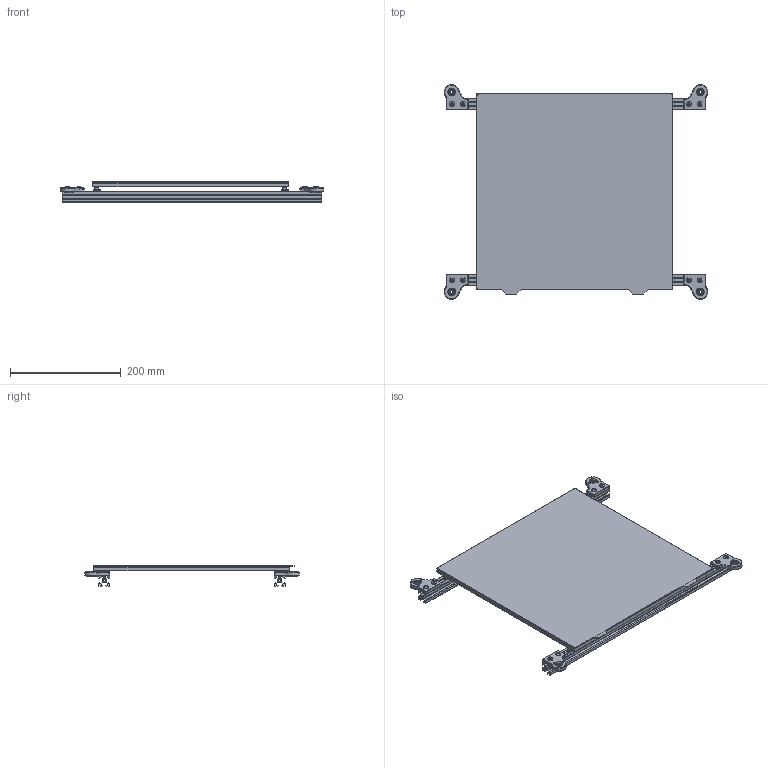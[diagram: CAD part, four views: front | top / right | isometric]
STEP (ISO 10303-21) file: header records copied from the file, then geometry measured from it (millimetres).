
FILE_DESCRIPTION(/* description */ (''),/* implementation_level */ '2;1');
FILE_NAME(/* name */ 'Bed Assembly v2.step',/* time_stamp */ '2024-06-21T14:24:53+07:00',/* author */ (''),/* organization */ (''),/* preprocessor_version */ 'ST-DEVELOPER v20',/* originating_system */ 'Autodesk Translation Framework v13.14.0.145',/* authorisation */ '');
FILE_SCHEMA (('AUTOMOTIVE_DESIGN { 1 0 10303 214 3 1 1 }'));
Length unit declared in the file: millimetre
Products named in the file (43): Bed Assembly; Bed Assembly_1; M4 Knurled Nut DIN 466-B; Flex Sheet; Magnet Sheet; 250mm MIC6 Bed; M3x16 SHCS (2); M4 Knurled Nut DIN 466-B (2); M3x16 SHCS (3); M4 Knurled Nut DIN 466-B (1); M4 Knurled Nut DIN 466-B (3); M3x16 SHCS; M3x16 SHCS (1); 2020 Extrusion 430mm (1); 2020 Extrusion 430mm; Z_Bed_Front Left; M5x10 BHCS (31); GE5C (2); M3x6 BHCS; M3x6 BHCS (8); M3x6 BHCS (9); M5x10 BHCS (39); Z_Bed_Front Right; M5x10 BHCS (31)(Mirror); GE5C (2)(Mirror); M3x6 BHCS(Mirror); M3x6 BHCS (8)(Mirror); M3x6 BHCS (9)(Mirror); M5x10 BHCS (39)(Mirror); Z_Bed_Rear Left; M5x10 BHCS (31)(Mirror) (1); GE5C (2)(Mirror) (1); M3x6 BHCS(Mirror) (1); M3x6 BHCS (8)(Mirror) (1); M3x6 BHCS (9)(Mirror) (1); M5x10 BHCS (39)(Mirror) (1); Z_Bed_Rear Right; M5x10 BHCS (31)(Mirror) (1)(Mirror); GE5C (2)(Mirror) (1)(Mirror); M3x6 BHCS(Mirror) (1)(Mirror)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
Assembly tree (42 placements, depth 3):
  Bed Assembly
    Bed Assembly_1
      M4 Knurled Nut DIN 466-B
      Flex Sheet
      Magnet Sheet
      250mm MIC6 Bed
      M3x16 SHCS (2)
      M4 Knurled Nut DIN 466-B (2)
      M3x16 SHCS (3)
      M4 Knurled Nut DIN 466-B (1)
      M4 Knurled Nut DIN 466-B (3)
      M3x16 SHCS
      M3x16 SHCS (1)
      2020 Extrusion 430mm (1)
      2020 Extrusion 430mm
    Z_Bed_Front Left
      M5x10 BHCS (31)
      GE5C (2)
      M3x6 BHCS
      M3x6 BHCS (8)
      M3x6 BHCS (9)
      M5x10 BHCS (39)
    Z_Bed_Front Right
      M5x10 BHCS (31)(Mirror)
      GE5C (2)(Mirror)
      M3x6 BHCS(Mirror)
      M3x6 BHCS (8)(Mirror)
      M3x6 BHCS (9)(Mirror)
      M5x10 BHCS (39)(Mirror)
    Z_Bed_Rear Left
      M5x10 BHCS (31)(Mirror) (1)
      GE5C (2)(Mirror) (1)
      M3x6 BHCS(Mirror) (1)
      M3x6 BHCS (8)(Mirror) (1)
      M3x6 BHCS (9)(Mirror) (1)
      M5x10 BHCS (39)(Mirror) (1)
    Z_Bed_Rear Right
      M5x10 BHCS (31)(Mirror) (1)(Mirror)
      GE5C (2)(Mirror) (1)(Mirror)
      M3x6 BHCS(Mirror) (1)(Mirror)
      M3x6 BHCS (8)(Mirror) (1)(Mirror)
      M3x6 BHCS (9)(Mirror) (1)(Mirror)
      M5x10 BHCS (39)(Mirror) (1)(Mirror)
Bounding box: 476.51 x 388.45 x 36.6 mm (x, y, z)
Volume: 1279470 mm3; surface area: 943179.7 mm2
Topology: 45 solids, 45 shells, 1008 faces, 2110 edges, 1284 vertices
Faces by surface type: plane 506, cone 244, cylinder 210, sphere 28, torus 20
Full cylindrical faces by diameter (mm): 2.8 x12, 3 x16, 4 x4, 4.2 x2, 5 x12, 5.4 x8, 5.5 x4, 5.7 x12, 8 x4, 9.5 x8, 12 x8, 14 x4, 14.2 x4
Entity records: 27869 total; most frequent: DIRECTION 4944, CARTESIAN_POINT 4775, ORIENTED_EDGE 4220, EDGE_CURVE 2110, AXIS2_PLACEMENT_3D 1885, VERTEX_POINT 1284, LINE 1174, VECTOR 1174
